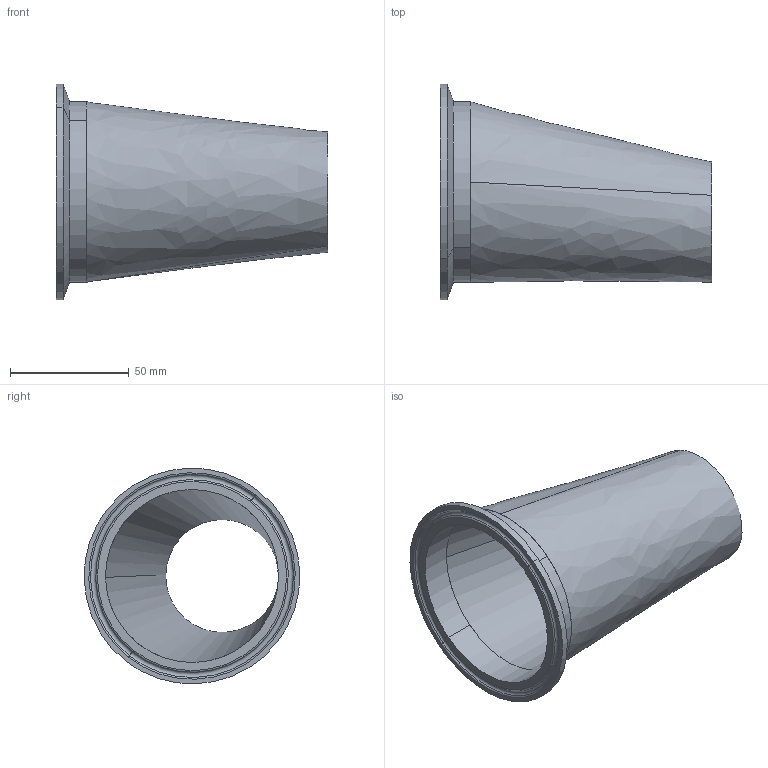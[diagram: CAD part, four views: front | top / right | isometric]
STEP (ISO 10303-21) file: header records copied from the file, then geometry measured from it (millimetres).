
FILE_DESCRIPTION (( 'STEP AP203' ), '1' );
FILE_NAME ('E32CW 3.0X2.0.STEP', '2021-10-18T19:55:21', ( '' ), ( '' ), 'SwSTEP 2.0', 'SolidWorks 2021', '' );
FILE_SCHEMA (( 'CONFIG_CONTROL_DESIGN' ));
Length unit declared in the file: inch
Products named in the file (3): E32CW 3.0X2.0; EG2CS3.0; E32WW3.0X2.0
Assembly tree (2 placements, depth 2):
  E32CW 3.0X2.0
    E32WW3.0X2.0
    EG2CS3.0
Bounding box: 114.3 x 90.86 x 90.86 mm (x, y, z)
Volume: 38662 mm3; surface area: 50830.6 mm2
Topology: 2 solids, 2 shells, 23 faces, 46 edges, 28 vertices
Faces by surface type: cylinder 6, torus 6, plane 5, bspline 4, cone 2
Entity records: 1377 total; most frequent: CARTESIAN_POINT 570, DIRECTION 124, ORIENTED_EDGE 92, AXIS2_PLACEMENT_3D 58, EDGE_CURVE 46, CIRCLE 34, EDGE_LOOP 28, VERTEX_POINT 28
